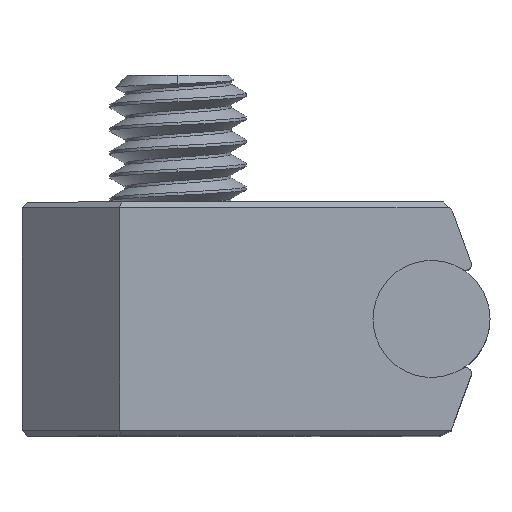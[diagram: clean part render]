
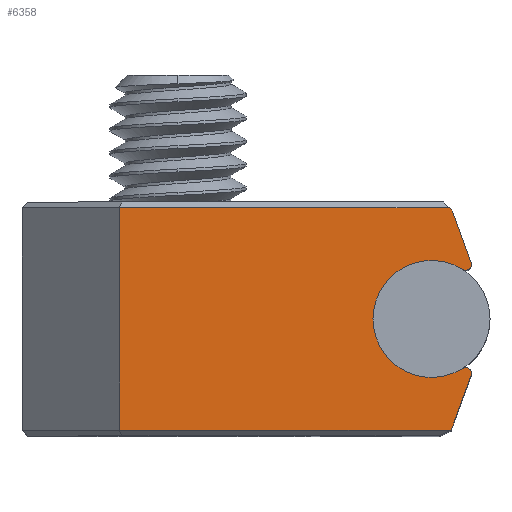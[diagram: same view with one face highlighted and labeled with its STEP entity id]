
A CAD part, top view. The second image highlights one B-rep face of the part: STEP entity #6358.
In plain terms, the highlighted planar face has unit normal (0, 0, 1) as drawn and (0, 0, -1) by its records, which use the part's own axes.
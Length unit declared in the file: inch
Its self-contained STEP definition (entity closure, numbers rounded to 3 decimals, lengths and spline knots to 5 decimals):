
#26 = LINE ( 'NONE', #5473, #6210 ) ;
#51 = EDGE_CURVE ( 'NONE', #5626, #1985, #274, .T. ) ;
#54 = ORIENTED_EDGE ( 'NONE', *, *, #5400, .F. ) ;
#55 = DIRECTION ( 'NONE',  ( -0.707, -0.707, 0. ) ) ;
#145 = CARTESIAN_POINT ( 'NONE',  ( 0.25591, 0., -0.19685 ) ) ;
#158 = DIRECTION ( 'NONE',  ( 0., -1., 0. ) ) ;
#274 = LINE ( 'NONE', #3058, #5168 ) ;
#303 = VERTEX_POINT ( 'NONE', #4818 ) ;
#373 = DIRECTION ( 'NONE',  ( 1., 0., 0. ) ) ;
#391 = DIRECTION ( 'NONE',  ( 0.342, -0.94, 0. ) ) ;
#444 = EDGE_CURVE ( 'NONE', #1985, #913, #802, .T. ) ;
#512 = DIRECTION ( 'NONE',  ( 0., 0., -1. ) ) ;
#539 = ORIENTED_EDGE ( 'NONE', *, *, #2830, .F. ) ;
#575 = DIRECTION ( 'NONE',  ( -1., 0., 0. ) ) ;
#582 = ORIENTED_EDGE ( 'NONE', *, *, #2533, .F. ) ;
#607 = CARTESIAN_POINT ( 'NONE',  ( 0.29032, 0.0551, -0.19685 ) ) ;
#644 = ORIENTED_EDGE ( 'NONE', *, *, #51, .F. ) ;
#729 = LINE ( 'NONE', #1840, #1444 ) ;
#791 = LINE ( 'NONE', #1249, #1739 ) ;
#802 = CIRCLE ( 'NONE', #1939, 0.00591 ) ;
#836 = EDGE_LOOP ( 'NONE', ( #2278, #2964, #54, #582, #3664, #539, #5722, #6328, #5795, #644 ) ) ;
#913 = VERTEX_POINT ( 'NONE', #5415 ) ;
#1064 = CARTESIAN_POINT ( 'NONE',  ( 0.29032, -0.0551, -0.19685 ) ) ;
#1114 = VERTEX_POINT ( 'NONE', #4389 ) ;
#1123 = AXIS2_PLACEMENT_3D ( 'NONE', #5375, #512, #2483 ) ;
#1249 = CARTESIAN_POINT ( 'NONE',  ( 0.29032, 0.1122, -0.19685 ) ) ;
#1329 = CIRCLE ( 'NONE', #6313, 0.00591 ) ;
#1444 = VECTOR ( 'NONE', #391, 39.37008 ) ;
#1531 = AXIS2_PLACEMENT_3D ( 'NONE', #2414, #4868, #373 ) ;
#1582 = CARTESIAN_POINT ( 'NONE',  ( 0.27367, -0.1122, -0.19685 ) ) ;
#1688 = VERTEX_POINT ( 'NONE', #3135 ) ;
#1739 = VECTOR ( 'NONE', #1767, 39.37008 ) ;
#1744 = AXIS2_PLACEMENT_3D ( 'NONE', #145, #3163, #6024 ) ;
#1767 = DIRECTION ( 'NONE',  ( -1., 0., 0. ) ) ;
#1840 = CARTESIAN_POINT ( 'NONE',  ( 0.27367, 0.11811, -0.19685 ) ) ;
#1921 = DIRECTION ( 'NONE',  ( -1., 0., 0. ) ) ;
#1939 = AXIS2_PLACEMENT_3D ( 'NONE', #1064, #5976, #1975 ) ;
#1975 = DIRECTION ( 'NONE',  ( -1., 0., 0. ) ) ;
#1985 = VERTEX_POINT ( 'NONE', #2555 ) ;
#2124 = CARTESIAN_POINT ( 'NONE',  ( -0.05906, -0.0551, -0.19685 ) ) ;
#2278 = ORIENTED_EDGE ( 'NONE', *, *, #3869, .T. ) ;
#2414 = CARTESIAN_POINT ( 'NONE',  ( 0.29032, -0.0551, -0.19685 ) ) ;
#2439 = CARTESIAN_POINT ( 'NONE',  ( 0.27705, -0.10883, -0.19685 ) ) ;
#2483 = DIRECTION ( 'NONE',  ( -1., 0., 0. ) ) ;
#2496 = LINE ( 'NONE', #2124, #4961 ) ;
#2533 = EDGE_CURVE ( 'NONE', #3232, #1114, #791, .T. ) ;
#2555 = CARTESIAN_POINT ( 'NONE',  ( 0.29587, -0.05712, -0.19685 ) ) ;
#2719 = EDGE_CURVE ( 'NONE', #4532, #4092, #5897, .T. ) ;
#2783 = EDGE_CURVE ( 'NONE', #913, #1688, #5688, .T. ) ;
#2830 = EDGE_CURVE ( 'NONE', #5963, #303, #1329, .T. ) ;
#2896 = EDGE_CURVE ( 'NONE', #1688, #5963, #4568, .T. ) ;
#2936 = EDGE_CURVE ( 'NONE', #3232, #303, #729, .T. ) ;
#2964 = ORIENTED_EDGE ( 'NONE', *, *, #2719, .T. ) ;
#3058 = CARTESIAN_POINT ( 'NONE',  ( 0.27705, -0.10883, -0.19685 ) ) ;
#3083 = CARTESIAN_POINT ( 'NONE',  ( -0.05906, -0.1122, -0.19685 ) ) ;
#3107 = VECTOR ( 'NONE', #1921, 39.37008 ) ;
#3124 = CARTESIAN_POINT ( 'NONE',  ( 0.27582, 0.1122, -0.19685 ) ) ;
#3135 = CARTESIAN_POINT ( 'NONE',  ( 0.19685, 0., -0.19685 ) ) ;
#3163 = DIRECTION ( 'NONE',  ( 0., 0., -1. ) ) ;
#3232 = VERTEX_POINT ( 'NONE', #3124 ) ;
#3234 = DIRECTION ( 'NONE',  ( 0.342, 0.94, 0. ) ) ;
#3630 = DIRECTION ( 'NONE',  ( 0., 0., 1. ) ) ;
#3664 = ORIENTED_EDGE ( 'NONE', *, *, #2936, .T. ) ;
#3869 = EDGE_CURVE ( 'NONE', #5626, #4532, #26, .T. ) ;
#4092 = VERTEX_POINT ( 'NONE', #3083 ) ;
#4389 = CARTESIAN_POINT ( 'NONE',  ( -0.05906, 0.1122, -0.19685 ) ) ;
#4410 = CARTESIAN_POINT ( 'NONE',  ( -0.15748, -0.1122, -0.19685 ) ) ;
#4532 = VERTEX_POINT ( 'NONE', #1582 ) ;
#4568 = CIRCLE ( 'NONE', #1744, 0.05906 ) ;
#4818 = CARTESIAN_POINT ( 'NONE',  ( 0.29587, 0.05712, -0.19685 ) ) ;
#4839 = CARTESIAN_POINT ( 'NONE',  ( 0.28719, 0.05009, -0.19685 ) ) ;
#4868 = DIRECTION ( 'NONE',  ( 0., 0., 1. ) ) ;
#4961 = VECTOR ( 'NONE', #158, 39.37008 ) ;
#5168 = VECTOR ( 'NONE', #3234, 39.37008 ) ;
#5315 = FACE_OUTER_BOUND ( 'NONE', #836, .T. ) ;
#5375 = CARTESIAN_POINT ( 'NONE',  ( 0.25591, 0., -0.19685 ) ) ;
#5400 = EDGE_CURVE ( 'NONE', #1114, #4092, #2496, .T. ) ;
#5413 = PLANE ( 'NONE',  #1531 ) ;
#5415 = CARTESIAN_POINT ( 'NONE',  ( 0.28719, -0.05009, -0.19685 ) ) ;
#5473 = CARTESIAN_POINT ( 'NONE',  ( 0.27705, -0.10883, -0.19685 ) ) ;
#5626 = VERTEX_POINT ( 'NONE', #2439 ) ;
#5688 = CIRCLE ( 'NONE', #1123, 0.05906 ) ;
#5722 = ORIENTED_EDGE ( 'NONE', *, *, #2896, .F. ) ;
#5795 = ORIENTED_EDGE ( 'NONE', *, *, #444, .F. ) ;
#5897 = LINE ( 'NONE', #4410, #3107 ) ;
#5963 = VERTEX_POINT ( 'NONE', #4839 ) ;
#5976 = DIRECTION ( 'NONE',  ( 0., 0., 1. ) ) ;
#6024 = DIRECTION ( 'NONE',  ( -1., 0., 0. ) ) ;
#6210 = VECTOR ( 'NONE', #55, 39.37008 ) ;
#6313 = AXIS2_PLACEMENT_3D ( 'NONE', #607, #3630, #575 ) ;
#6328 = ORIENTED_EDGE ( 'NONE', *, *, #2783, .F. ) ;
#6358 = ADVANCED_FACE ( 'NONE', ( #5315 ), #5413, .F. ) ;
